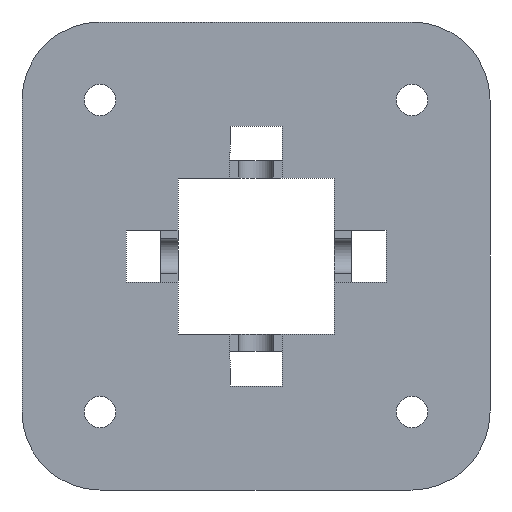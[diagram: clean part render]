
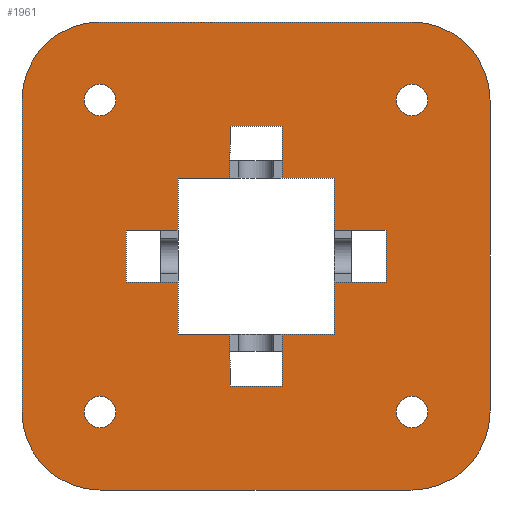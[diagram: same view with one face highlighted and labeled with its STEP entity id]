
A CAD part, front view. The second image highlights one B-rep face of the part: STEP entity #1961.
In plain terms, the highlighted planar face has unit normal (0, -1, 0).
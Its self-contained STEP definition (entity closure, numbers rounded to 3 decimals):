
#51=FACE_BOUND('',#246,.T.);
#52=FACE_BOUND('',#247,.T.);
#53=FACE_BOUND('',#248,.T.);
#54=FACE_BOUND('',#249,.T.);
#55=FACE_BOUND('',#250,.T.);
#61=PLANE('',#2095);
#139=FACE_OUTER_BOUND('',#245,.T.);
#245=EDGE_LOOP('',(#1349,#1350,#1351,#1352,#1353,#1354,#1355,#1356));
#246=EDGE_LOOP('',(#1357));
#247=EDGE_LOOP('',(#1358));
#248=EDGE_LOOP('',(#1359));
#249=EDGE_LOOP('',(#1360));
#250=EDGE_LOOP('',(#1361,#1362,#1363,#1364,#1365,#1366,#1367,#1368,#1369,
#1370,#1371,#1372,#1373,#1374,#1375,#1376,#1377,#1378,#1379,#1380));
#361=LINE('',#2849,#597);
#362=LINE('',#2853,#598);
#363=LINE('',#2857,#599);
#364=LINE('',#2860,#600);
#365=LINE('',#2863,#601);
#366=LINE('',#2865,#602);
#367=LINE('',#2867,#603);
#368=LINE('',#2869,#604);
#369=LINE('',#2871,#605);
#370=LINE('',#2873,#606);
#371=LINE('',#2875,#607);
#372=LINE('',#2877,#608);
#373=LINE('',#2879,#609);
#374=LINE('',#2881,#610);
#375=LINE('',#2883,#611);
#376=LINE('',#2885,#612);
#377=LINE('',#2887,#613);
#378=LINE('',#2889,#614);
#379=LINE('',#2891,#615);
#380=LINE('',#2893,#616);
#381=LINE('',#2895,#617);
#382=LINE('',#2897,#618);
#383=LINE('',#2899,#619);
#384=LINE('',#2900,#620);
#597=VECTOR('',#2283,1000.);
#598=VECTOR('',#2286,1000.);
#599=VECTOR('',#2289,1000.);
#600=VECTOR('',#2292,1000.);
#601=VECTOR('',#2293,1000.);
#602=VECTOR('',#2294,1000.);
#603=VECTOR('',#2295,1000.);
#604=VECTOR('',#2296,1000.);
#605=VECTOR('',#2297,1000.);
#606=VECTOR('',#2298,1000.);
#607=VECTOR('',#2299,1000.);
#608=VECTOR('',#2300,1000.);
#609=VECTOR('',#2301,1000.);
#610=VECTOR('',#2302,1000.);
#611=VECTOR('',#2303,1000.);
#612=VECTOR('',#2304,1000.);
#613=VECTOR('',#2305,1000.);
#614=VECTOR('',#2306,1000.);
#615=VECTOR('',#2307,1000.);
#616=VECTOR('',#2308,1000.);
#617=VECTOR('',#2309,1000.);
#618=VECTOR('',#2310,1000.);
#619=VECTOR('',#2311,1000.);
#620=VECTOR('',#2312,1000.);
#830=CIRCLE('',#2085,4.5);
#832=CIRCLE('',#2088,4.5);
#834=CIRCLE('',#2091,4.5);
#836=CIRCLE('',#2094,4.5);
#837=CIRCLE('',#2096,22.5);
#838=CIRCLE('',#2097,22.5);
#839=CIRCLE('',#2098,22.5);
#840=CIRCLE('',#2099,22.5);
#854=VERTEX_POINT('',#2823);
#856=VERTEX_POINT('',#2829);
#858=VERTEX_POINT('',#2835);
#860=VERTEX_POINT('',#2841);
#861=VERTEX_POINT('',#2845);
#862=VERTEX_POINT('',#2846);
#863=VERTEX_POINT('',#2848);
#864=VERTEX_POINT('',#2850);
#865=VERTEX_POINT('',#2852);
#866=VERTEX_POINT('',#2854);
#867=VERTEX_POINT('',#2856);
#868=VERTEX_POINT('',#2858);
#869=VERTEX_POINT('',#2861);
#870=VERTEX_POINT('',#2862);
#871=VERTEX_POINT('',#2864);
#872=VERTEX_POINT('',#2866);
#873=VERTEX_POINT('',#2868);
#874=VERTEX_POINT('',#2870);
#875=VERTEX_POINT('',#2872);
#876=VERTEX_POINT('',#2874);
#877=VERTEX_POINT('',#2876);
#878=VERTEX_POINT('',#2878);
#879=VERTEX_POINT('',#2880);
#880=VERTEX_POINT('',#2882);
#881=VERTEX_POINT('',#2884);
#882=VERTEX_POINT('',#2886);
#883=VERTEX_POINT('',#2888);
#884=VERTEX_POINT('',#2890);
#885=VERTEX_POINT('',#2892);
#886=VERTEX_POINT('',#2894);
#887=VERTEX_POINT('',#2896);
#888=VERTEX_POINT('',#2898);
#1039=EDGE_CURVE('',#854,#854,#830,.T.);
#1042=EDGE_CURVE('',#856,#856,#832,.T.);
#1045=EDGE_CURVE('',#858,#858,#834,.T.);
#1048=EDGE_CURVE('',#860,#860,#836,.T.);
#1049=EDGE_CURVE('',#861,#862,#837,.T.);
#1050=EDGE_CURVE('',#863,#862,#361,.T.);
#1051=EDGE_CURVE('',#863,#864,#838,.T.);
#1052=EDGE_CURVE('',#865,#864,#362,.T.);
#1053=EDGE_CURVE('',#865,#866,#839,.T.);
#1054=EDGE_CURVE('',#867,#866,#363,.T.);
#1055=EDGE_CURVE('',#867,#868,#840,.T.);
#1056=EDGE_CURVE('',#861,#868,#364,.T.);
#1057=EDGE_CURVE('',#869,#870,#365,.T.);
#1058=EDGE_CURVE('',#871,#869,#366,.T.);
#1059=EDGE_CURVE('',#871,#872,#367,.T.);
#1060=EDGE_CURVE('',#872,#873,#368,.T.);
#1061=EDGE_CURVE('',#873,#874,#369,.T.);
#1062=EDGE_CURVE('',#874,#875,#370,.T.);
#1063=EDGE_CURVE('',#875,#876,#371,.T.);
#1064=EDGE_CURVE('',#876,#877,#372,.T.);
#1065=EDGE_CURVE('',#877,#878,#373,.T.);
#1066=EDGE_CURVE('',#878,#879,#374,.T.);
#1067=EDGE_CURVE('',#879,#880,#375,.T.);
#1068=EDGE_CURVE('',#880,#881,#376,.T.);
#1069=EDGE_CURVE('',#881,#882,#377,.T.);
#1070=EDGE_CURVE('',#882,#883,#378,.T.);
#1071=EDGE_CURVE('',#884,#883,#379,.T.);
#1072=EDGE_CURVE('',#885,#884,#380,.T.);
#1073=EDGE_CURVE('',#886,#885,#381,.T.);
#1074=EDGE_CURVE('',#886,#887,#382,.T.);
#1075=EDGE_CURVE('',#887,#888,#383,.T.);
#1076=EDGE_CURVE('',#870,#888,#384,.T.);
#1349=ORIENTED_EDGE('',*,*,#1049,.T.);
#1350=ORIENTED_EDGE('',*,*,#1050,.F.);
#1351=ORIENTED_EDGE('',*,*,#1051,.T.);
#1352=ORIENTED_EDGE('',*,*,#1052,.F.);
#1353=ORIENTED_EDGE('',*,*,#1053,.T.);
#1354=ORIENTED_EDGE('',*,*,#1054,.F.);
#1355=ORIENTED_EDGE('',*,*,#1055,.T.);
#1356=ORIENTED_EDGE('',*,*,#1056,.F.);
#1357=ORIENTED_EDGE('',*,*,#1045,.T.);
#1358=ORIENTED_EDGE('',*,*,#1042,.T.);
#1359=ORIENTED_EDGE('',*,*,#1048,.T.);
#1360=ORIENTED_EDGE('',*,*,#1039,.T.);
#1361=ORIENTED_EDGE('',*,*,#1057,.F.);
#1362=ORIENTED_EDGE('',*,*,#1058,.F.);
#1363=ORIENTED_EDGE('',*,*,#1059,.T.);
#1364=ORIENTED_EDGE('',*,*,#1060,.T.);
#1365=ORIENTED_EDGE('',*,*,#1061,.T.);
#1366=ORIENTED_EDGE('',*,*,#1062,.T.);
#1367=ORIENTED_EDGE('',*,*,#1063,.T.);
#1368=ORIENTED_EDGE('',*,*,#1064,.T.);
#1369=ORIENTED_EDGE('',*,*,#1065,.T.);
#1370=ORIENTED_EDGE('',*,*,#1066,.T.);
#1371=ORIENTED_EDGE('',*,*,#1067,.T.);
#1372=ORIENTED_EDGE('',*,*,#1068,.T.);
#1373=ORIENTED_EDGE('',*,*,#1069,.T.);
#1374=ORIENTED_EDGE('',*,*,#1070,.T.);
#1375=ORIENTED_EDGE('',*,*,#1071,.F.);
#1376=ORIENTED_EDGE('',*,*,#1072,.F.);
#1377=ORIENTED_EDGE('',*,*,#1073,.F.);
#1378=ORIENTED_EDGE('',*,*,#1074,.T.);
#1379=ORIENTED_EDGE('',*,*,#1075,.T.);
#1380=ORIENTED_EDGE('',*,*,#1076,.F.);
#1961=ADVANCED_FACE('',(#139,#51,#52,#53,#54,#55),#61,.T.);
#2085=AXIS2_PLACEMENT_3D('',#2825,#2256,#2257);
#2088=AXIS2_PLACEMENT_3D('',#2831,#2263,#2264);
#2091=AXIS2_PLACEMENT_3D('',#2837,#2270,#2271);
#2094=AXIS2_PLACEMENT_3D('',#2843,#2277,#2278);
#2095=AXIS2_PLACEMENT_3D('',#2844,#2279,#2280);
#2096=AXIS2_PLACEMENT_3D('',#2847,#2281,#2282);
#2097=AXIS2_PLACEMENT_3D('',#2851,#2284,#2285);
#2098=AXIS2_PLACEMENT_3D('',#2855,#2287,#2288);
#2099=AXIS2_PLACEMENT_3D('',#2859,#2290,#2291);
#2256=DIRECTION('center_axis',(0.,1.,0.));
#2257=DIRECTION('ref_axis',(0.,0.,-1.));
#2263=DIRECTION('center_axis',(0.,1.,0.));
#2264=DIRECTION('ref_axis',(0.,0.,-1.));
#2270=DIRECTION('center_axis',(0.,1.,0.));
#2271=DIRECTION('ref_axis',(0.,0.,1.));
#2277=DIRECTION('center_axis',(0.,1.,0.));
#2278=DIRECTION('ref_axis',(0.,0.,1.));
#2279=DIRECTION('center_axis',(0.,-1.,0.));
#2280=DIRECTION('ref_axis',(0.,0.,-1.));
#2281=DIRECTION('center_axis',(0.,-1.,0.));
#2282=DIRECTION('ref_axis',(0.,0.,-1.));
#2283=DIRECTION('',(1.,0.,0.));
#2284=DIRECTION('center_axis',(0.,-1.,0.));
#2285=DIRECTION('ref_axis',(0.,0.,-1.));
#2286=DIRECTION('',(0.,0.,1.));
#2287=DIRECTION('center_axis',(0.,-1.,0.));
#2288=DIRECTION('ref_axis',(0.,0.,-1.));
#2289=DIRECTION('',(-1.,0.,0.));
#2290=DIRECTION('center_axis',(0.,-1.,0.));
#2291=DIRECTION('ref_axis',(0.,0.,-1.));
#2292=DIRECTION('',(0.,0.,-1.));
#2293=DIRECTION('',(0.,0.,-1.));
#2294=DIRECTION('',(-1.,0.,0.));
#2295=DIRECTION('',(0.,0.,1.));
#2296=DIRECTION('',(1.,0.,0.));
#2297=DIRECTION('',(0.,0.,1.));
#2298=DIRECTION('',(1.,0.,0.));
#2299=DIRECTION('',(0.,0.,-1.));
#2300=DIRECTION('',(1.,0.,0.));
#2301=DIRECTION('',(0.,0.,-1.));
#2302=DIRECTION('',(1.,0.,0.));
#2303=DIRECTION('',(0.,0.,-1.));
#2304=DIRECTION('',(-1.,0.,0.));
#2305=DIRECTION('',(0.,0.,-1.));
#2306=DIRECTION('',(-1.,0.,0.));
#2307=DIRECTION('',(0.,0.,1.));
#2308=DIRECTION('',(1.,0.,0.));
#2309=DIRECTION('',(0.,0.,-1.));
#2310=DIRECTION('',(-1.,0.,0.));
#2311=DIRECTION('',(0.,0.,1.));
#2312=DIRECTION('',(1.,0.,0.));
#2823=CARTESIAN_POINT('',(-45.,0.,49.5));
#2825=CARTESIAN_POINT('Origin',(-45.,0.,45.));
#2829=CARTESIAN_POINT('',(45.,0.,49.5));
#2831=CARTESIAN_POINT('Origin',(45.,0.,45.));
#2835=CARTESIAN_POINT('',(45.,0.,-40.5));
#2837=CARTESIAN_POINT('Origin',(45.,0.,-45.));
#2841=CARTESIAN_POINT('',(-45.,0.,-40.5));
#2843=CARTESIAN_POINT('Origin',(-45.,0.,-45.));
#2844=CARTESIAN_POINT('Origin',(-67.5,0.,-67.5));
#2845=CARTESIAN_POINT('',(67.5,0.,45.));
#2846=CARTESIAN_POINT('',(45.,0.,67.5));
#2847=CARTESIAN_POINT('Origin',(45.,0.,45.));
#2848=CARTESIAN_POINT('',(-45.,0.,67.5));
#2849=CARTESIAN_POINT('',(-67.5,0.,67.5));
#2850=CARTESIAN_POINT('',(-67.5,0.,45.));
#2851=CARTESIAN_POINT('Origin',(-45.,0.,45.));
#2852=CARTESIAN_POINT('',(-67.5,0.,-45.));
#2853=CARTESIAN_POINT('',(-67.5,0.,67.5));
#2854=CARTESIAN_POINT('',(-45.,0.,-67.5));
#2855=CARTESIAN_POINT('Origin',(-45.,0.,-45.));
#2856=CARTESIAN_POINT('',(45.,0.,-67.5));
#2857=CARTESIAN_POINT('',(-67.5,0.,-67.5));
#2858=CARTESIAN_POINT('',(67.5,0.,-45.));
#2859=CARTESIAN_POINT('Origin',(45.,0.,-45.));
#2860=CARTESIAN_POINT('',(67.5,0.,67.5));
#2861=CARTESIAN_POINT('',(-37.5,0.,7.5));
#2862=CARTESIAN_POINT('',(-37.5,0.,-7.5));
#2863=CARTESIAN_POINT('',(-37.5,0.,-7.5));
#2864=CARTESIAN_POINT('',(-22.5,0.,7.5));
#2865=CARTESIAN_POINT('',(-22.5,0.,7.5));
#2866=CARTESIAN_POINT('',(-22.5,0.,22.5));
#2867=CARTESIAN_POINT('',(-22.5,0.,-22.5));
#2868=CARTESIAN_POINT('',(-7.5,0.,22.5));
#2869=CARTESIAN_POINT('',(-22.5,0.,22.5));
#2870=CARTESIAN_POINT('',(-7.5,0.,37.5));
#2871=CARTESIAN_POINT('',(-7.5,0.,22.5));
#2872=CARTESIAN_POINT('',(7.5,0.,37.5));
#2873=CARTESIAN_POINT('',(7.5,0.,37.5));
#2874=CARTESIAN_POINT('',(7.5,0.,22.5));
#2875=CARTESIAN_POINT('',(7.5,0.,22.5));
#2876=CARTESIAN_POINT('',(22.5,0.,22.5));
#2877=CARTESIAN_POINT('',(-22.5,0.,22.5));
#2878=CARTESIAN_POINT('',(22.5,0.,7.5));
#2879=CARTESIAN_POINT('',(22.5,0.,-22.5));
#2880=CARTESIAN_POINT('',(37.5,0.,7.5));
#2881=CARTESIAN_POINT('',(22.5,0.,7.5));
#2882=CARTESIAN_POINT('',(37.5,0.,-7.5));
#2883=CARTESIAN_POINT('',(37.5,0.,-7.5));
#2884=CARTESIAN_POINT('',(22.5,0.,-7.5));
#2885=CARTESIAN_POINT('',(22.5,0.,-7.5));
#2886=CARTESIAN_POINT('',(22.5,0.,-22.5));
#2887=CARTESIAN_POINT('',(22.5,0.,-22.5));
#2888=CARTESIAN_POINT('',(7.5,0.,-22.5));
#2889=CARTESIAN_POINT('',(-22.5,0.,-22.5));
#2890=CARTESIAN_POINT('',(7.5,0.,-37.5));
#2891=CARTESIAN_POINT('',(7.5,0.,-22.5));
#2892=CARTESIAN_POINT('',(-7.5,0.,-37.5));
#2893=CARTESIAN_POINT('',(7.5,0.,-37.5));
#2894=CARTESIAN_POINT('',(-7.5,0.,-22.5));
#2895=CARTESIAN_POINT('',(-7.5,0.,-22.5));
#2896=CARTESIAN_POINT('',(-22.5,0.,-22.5));
#2897=CARTESIAN_POINT('',(-22.5,0.,-22.5));
#2898=CARTESIAN_POINT('',(-22.5,0.,-7.5));
#2899=CARTESIAN_POINT('',(-22.5,0.,-22.5));
#2900=CARTESIAN_POINT('',(-22.5,0.,-7.5));
